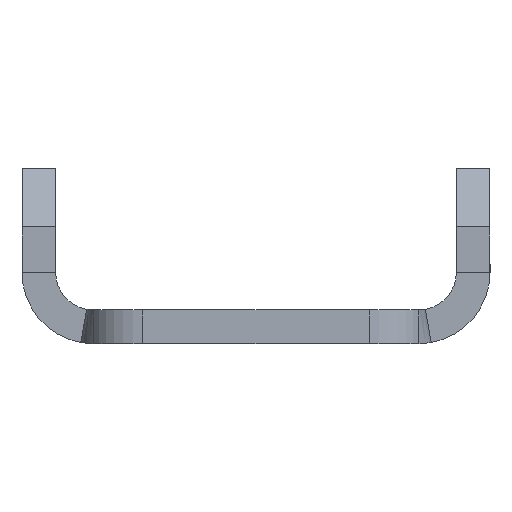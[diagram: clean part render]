
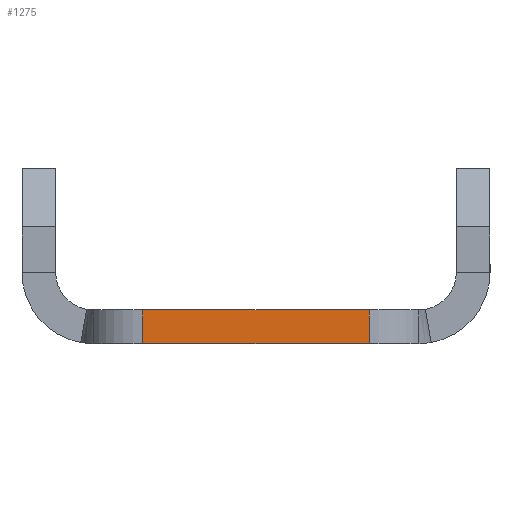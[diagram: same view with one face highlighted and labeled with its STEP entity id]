
A CAD part, left-side view. The second image highlights one B-rep face of the part: STEP entity #1275.
In plain terms, the highlighted planar face has unit normal (-1, 0, 0).
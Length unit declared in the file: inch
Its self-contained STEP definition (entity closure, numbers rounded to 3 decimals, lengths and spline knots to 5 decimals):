
#529 = EDGE_CURVE ( 'NONE', #538, #534, #2812, .T. ) ;
#534 = VERTEX_POINT ( 'NONE', #2849 ) ;
#538 = VERTEX_POINT ( 'NONE', #2842 ) ;
#839 = EDGE_CURVE ( 'NONE', #855, #1044, #3416, .T. ) ;
#855 = VERTEX_POINT ( 'NONE', #3402 ) ;
#1001 = EDGE_CURVE ( 'NONE', #534, #1044, #3568, .T. ) ;
#1044 = VERTEX_POINT ( 'NONE', #3499 ) ;
#1124 = EDGE_CURVE ( 'NONE', #538, #855, #3759, .T. ) ;
#1188 = EDGE_LOOP ( 'NONE', ( #1190, #1260, #1206, #1273 ) ) ;
#1190 = ORIENTED_EDGE ( 'NONE', *, *, #839, .T. ) ;
#1206 = ORIENTED_EDGE ( 'NONE', *, *, #529, .F. ) ;
#1260 = ORIENTED_EDGE ( 'NONE', *, *, #1001, .F. ) ;
#1273 = ORIENTED_EDGE ( 'NONE', *, *, #1124, .T. ) ;
#1275 = ADVANCED_FACE ( 'NONE', ( #4010 ), #4011, .F. ) ;
#2809 = DIRECTION ( 'NONE',  ( 0., -1., 0. ) ) ;
#2810 = VECTOR ( 'NONE', #2809, 39.37008 ) ;
#2811 = CARTESIAN_POINT ( 'NONE',  ( -9.7875, 0.242, 0.072 ) ) ;
#2812 = LINE ( 'NONE', #2811, #2810 ) ;
#2842 = CARTESIAN_POINT ( 'NONE',  ( -9.7875, 0.242, 0.072 ) ) ;
#2849 = CARTESIAN_POINT ( 'NONE',  ( -9.7875, -0.242, 0.072 ) ) ;
#3402 = CARTESIAN_POINT ( 'NONE',  ( -9.7875, 0.242, 0. ) ) ;
#3413 = DIRECTION ( 'NONE',  ( 0., -1., 0. ) ) ;
#3414 = VECTOR ( 'NONE', #3413, 39.37008 ) ;
#3415 = CARTESIAN_POINT ( 'NONE',  ( -9.7875, 0.242, 0. ) ) ;
#3416 = LINE ( 'NONE', #3415, #3414 ) ;
#3499 = CARTESIAN_POINT ( 'NONE',  ( -9.7875, -0.242, 0. ) ) ;
#3560 = DIRECTION ( 'NONE',  ( 0., 0., -1. ) ) ;
#3562 = VECTOR ( 'NONE', #3560, 39.37008 ) ;
#3564 = CARTESIAN_POINT ( 'NONE',  ( -9.7875, -0.242, 0.072 ) ) ;
#3568 = LINE ( 'NONE', #3564, #3562 ) ;
#3711 = CARTESIAN_POINT ( 'NONE',  ( -9.7875, 0.242, 0.072 ) ) ;
#3752 = DIRECTION ( 'NONE',  ( 0., 0., -1. ) ) ;
#3753 = VECTOR ( 'NONE', #3752, 39.37008 ) ;
#3759 = LINE ( 'NONE', #3711, #3753 ) ;
#3957 = DIRECTION ( 'NONE',  ( 0., 0., -1. ) ) ;
#4004 = DIRECTION ( 'NONE',  ( 1., 0., 0. ) ) ;
#4005 = CARTESIAN_POINT ( 'NONE',  ( -9.7875, 0.242, 0.072 ) ) ;
#4008 = AXIS2_PLACEMENT_3D ( 'NONE', #4005, #4004, #3957 ) ;
#4010 = FACE_OUTER_BOUND ( 'NONE', #1188, .T. ) ;
#4011 = PLANE ( 'NONE',  #4008 ) ;
